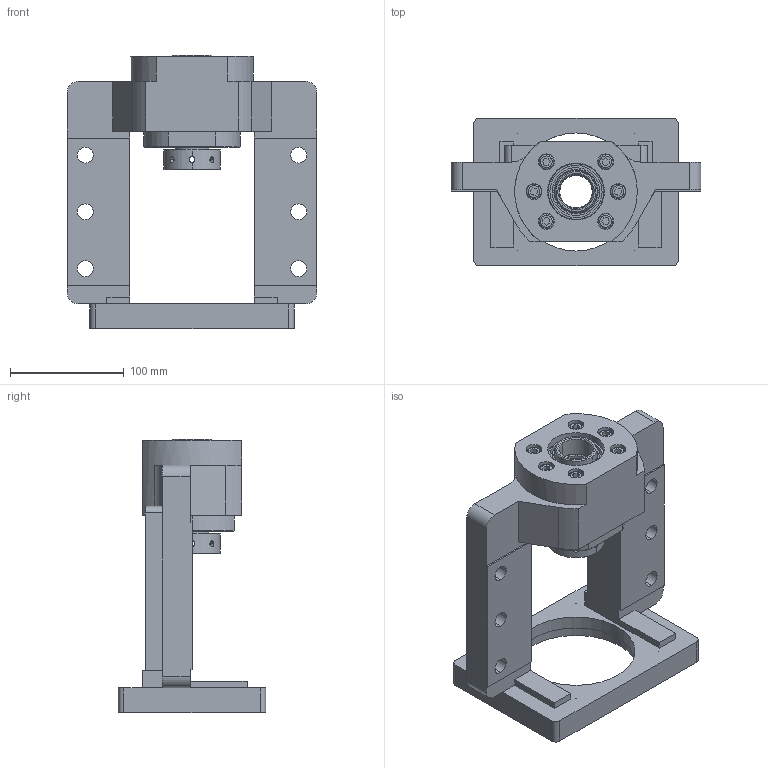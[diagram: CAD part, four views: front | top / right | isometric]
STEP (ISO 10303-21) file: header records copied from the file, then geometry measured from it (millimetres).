
FILE_DESCRIPTION (( 'STEP AP203' ), '1' );
FILE_NAME ('MBCK30L-G²Õ¦X¥ó.STEP', '2025-09-18T03:20:29', ( '' ), ( '' ), 'SwSTEP 2.0', 'SolidWorks 2018', '' );
FILE_SCHEMA (( 'CONFIG_CONTROL_DESIGN' ));
Length unit declared in the file: millimetre
Products named in the file (2): MBCK30L-G組合件
Bounding box: 220 x 130 x 241 mm (x, y, z)
Surface area: 211076 mm2 (no closed solid volume)
Topology: 0 solids, 32 shells, 342 faces, 955 edges, 641 vertices
Faces by surface type: plane 126, cylinder 124, cone 60, torus 24, bspline 8
Entity records: 23371 total; most frequent: CARTESIAN_POINT 14476, DIRECTION 1884, ORIENTED_EDGE 1651, EDGE_CURVE 947, AXIS2_PLACEMENT_3D 739, VERTEX_POINT 641, EDGE_LOOP 420, VECTOR 406
